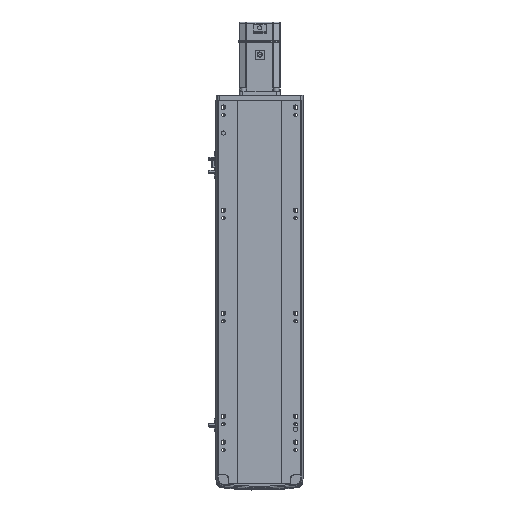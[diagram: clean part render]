
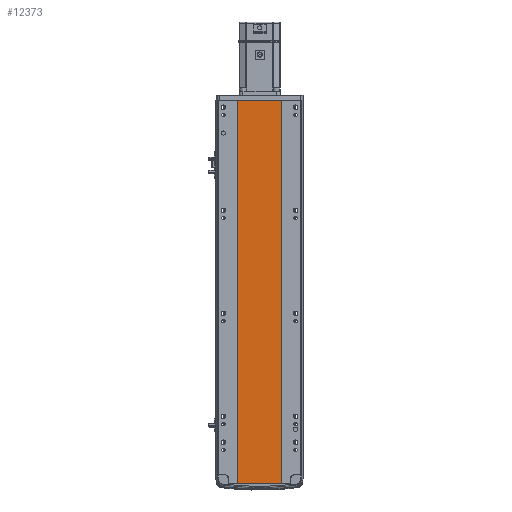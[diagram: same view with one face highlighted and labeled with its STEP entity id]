
A CAD part, front view. The second image highlights one B-rep face of the part: STEP entity #12373.
In plain terms, the highlighted planar face has unit normal (0, -1, 0).
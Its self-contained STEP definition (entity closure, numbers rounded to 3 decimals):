
#638 = FACE_OUTER_BOUND ( 'NONE', #6043, .T. ) ;
#1375 = DIRECTION ( 'NONE',  ( -1., 0., 0. ) ) ;
#1543 = CARTESIAN_POINT ( 'NONE',  ( 0., 0.999, 743.5 ) ) ;
#1586 = ORIENTED_EDGE ( 'NONE', *, *, #2058, .F. ) ;
#2058 = EDGE_CURVE ( 'NONE', #13084, #41949, #14630, .T. ) ;
#3606 = CARTESIAN_POINT ( 'NONE',  ( -41.791, 1., 743.5 ) ) ;
#3867 = VECTOR ( 'NONE', #24014, 1000. ) ;
#4139 = VECTOR ( 'NONE', #31836, 1000. ) ;
#5451 = DIRECTION ( 'NONE',  ( 0., 1., 0. ) ) ;
#5997 = ORIENTED_EDGE ( 'NONE', *, *, #6396, .T. ) ;
#6043 = EDGE_LOOP ( 'NONE', ( #40171, #1586, #37817, #5997 ) ) ;
#6396 = EDGE_CURVE ( 'NONE', #36937, #9136, #14899, .T. ) ;
#6805 = CARTESIAN_POINT ( 'NONE',  ( 0., 0.999, 0. ) ) ;
#9136 = VERTEX_POINT ( 'NONE', #14446 ) ;
#12097 = CARTESIAN_POINT ( 'NONE',  ( 41.793, 0.998, 0. ) ) ;
#12373 = ADVANCED_FACE ( 'NONE', ( #638 ), #25032, .F. ) ;
#13084 = VERTEX_POINT ( 'NONE', #51528 ) ;
#14446 = CARTESIAN_POINT ( 'NONE',  ( -41.791, 1., 0. ) ) ;
#14630 = LINE ( 'NONE', #51586, #3867 ) ;
#14899 = LINE ( 'NONE', #3606, #4139 ) ;
#16392 = LINE ( 'NONE', #6805, #27097 ) ;
#17337 = CARTESIAN_POINT ( 'NONE',  ( 0., 0.999, 743.5 ) ) ;
#18287 = DIRECTION ( 'NONE',  ( 1., 0., 0. ) ) ;
#24014 = DIRECTION ( 'NONE',  ( 0., 0., -1. ) ) ;
#25032 = PLANE ( 'NONE',  #29558 ) ;
#25526 = CARTESIAN_POINT ( 'NONE',  ( -41.791, 1., 743.5 ) ) ;
#27097 = VECTOR ( 'NONE', #18287, 1000. ) ;
#29558 = AXIS2_PLACEMENT_3D ( 'NONE', #1543, #5451, #1375 ) ;
#31836 = DIRECTION ( 'NONE',  ( 0., 0., -1. ) ) ;
#36937 = VERTEX_POINT ( 'NONE', #25526 ) ;
#37817 = ORIENTED_EDGE ( 'NONE', *, *, #38957, .F. ) ;
#38957 = EDGE_CURVE ( 'NONE', #36937, #13084, #48817, .T. ) ;
#39315 = VECTOR ( 'NONE', #49599, 1000. ) ;
#40171 = ORIENTED_EDGE ( 'NONE', *, *, #50521, .T. ) ;
#41949 = VERTEX_POINT ( 'NONE', #12097 ) ;
#48817 = LINE ( 'NONE', #17337, #39315 ) ;
#49599 = DIRECTION ( 'NONE',  ( 1., 0., 0. ) ) ;
#50521 = EDGE_CURVE ( 'NONE', #9136, #41949, #16392, .T. ) ;
#51528 = CARTESIAN_POINT ( 'NONE',  ( 41.793, 0.998, 743.5 ) ) ;
#51586 = CARTESIAN_POINT ( 'NONE',  ( 41.793, 0.998, 743.5 ) ) ;
